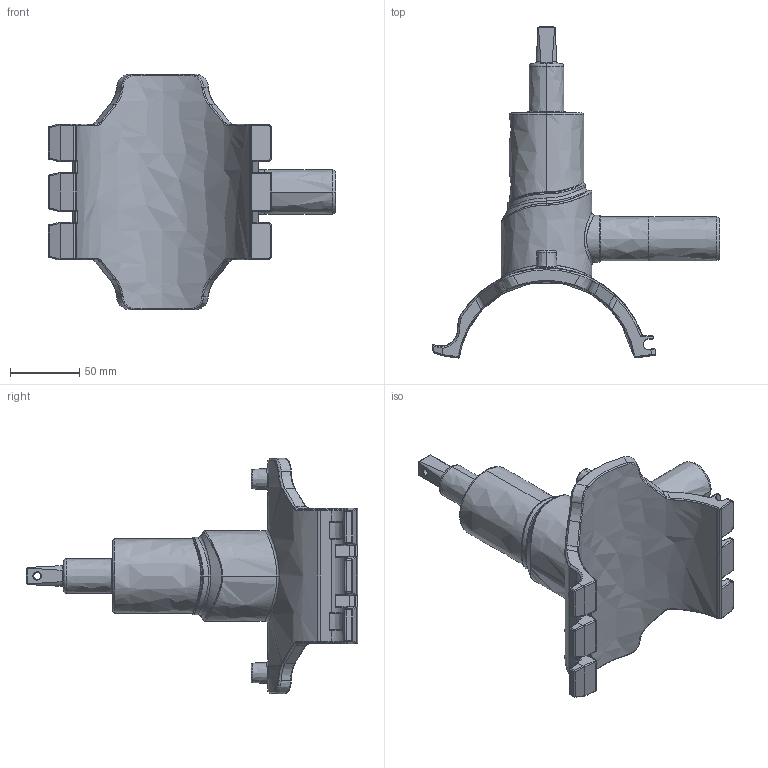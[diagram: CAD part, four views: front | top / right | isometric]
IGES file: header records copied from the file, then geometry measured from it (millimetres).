
Start section:  PTC IGES file: dav2_d125_32_01.igs
Global section: file name: dav2_d125_32_01.igs; native system: Creo Parametric by PTC Inc.; preprocessor: 2019030; author: mikulicp; organization: Unknown; date: 20210622.132122; units: millimetre
Bounding box: 207.39 x 239.79 x 170 mm (x, y, z)
Surface area: 101196.3 mm2 (no closed solid volume)
Topology: 0 solids, 0 shells, 571 faces, 2768 edges, 2762 vertices
Faces by surface type: bspline 571
